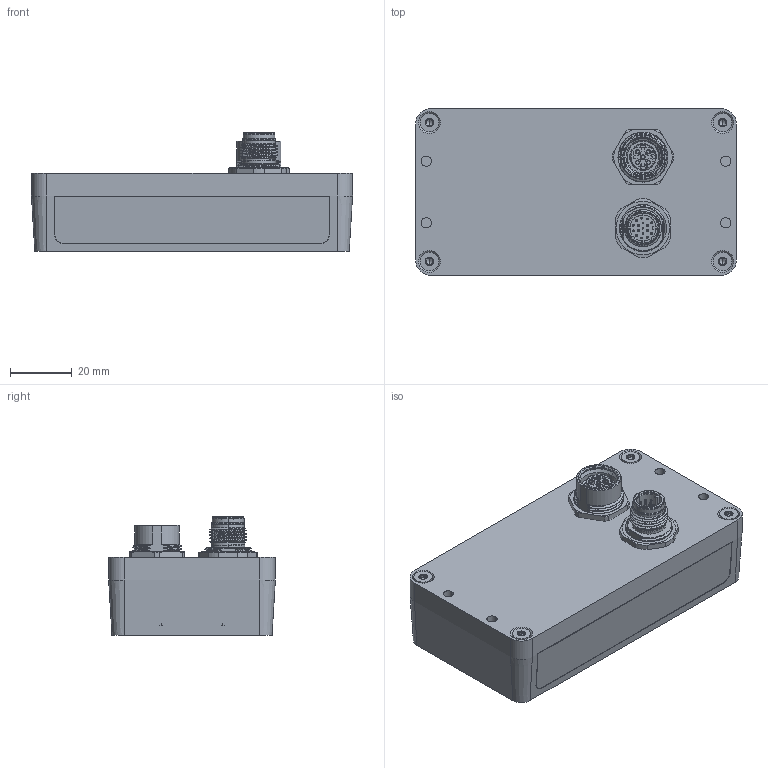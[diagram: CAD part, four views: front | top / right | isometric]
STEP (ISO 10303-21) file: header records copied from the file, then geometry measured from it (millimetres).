
FILE_DESCRIPTION (( 'STEP AP214' ), '1' );
FILE_NAME ('SPN1025A 1.0.0 dummy to customers.STEP', '2025-05-08T07:47:16', ( '' ), ( '' ), 'SwSTEP 2.0', 'SolidWorks 2023', '' );
FILE_SCHEMA (( 'AUTOMOTIVE_DESIGN' ));
Length unit declared in the file: millimetre
Products named in the file (1): SPN1025A 1.0.0 dummy to customers
Bounding box: 104 x 54 x 38.4 mm (x, y, z)
Volume: 138651.4 mm3; surface area: 40765.5 mm2
Topology: 6 solids, 40 shells, 1126 faces, 2898 edges, 1898 vertices
Faces by surface type: cylinder 361, plane 335, cone 185, bspline 161, torus 76, sphere 8
Entity records: 52279 total; most frequent: CARTESIAN_POINT 25919, ORIENTED_EDGE 5746, DIRECTION 5119, EDGE_CURVE 2873, AXIS2_PLACEMENT_3D 1993, VERTEX_POINT 1890, EDGE_LOOP 1213, LINE 1133
